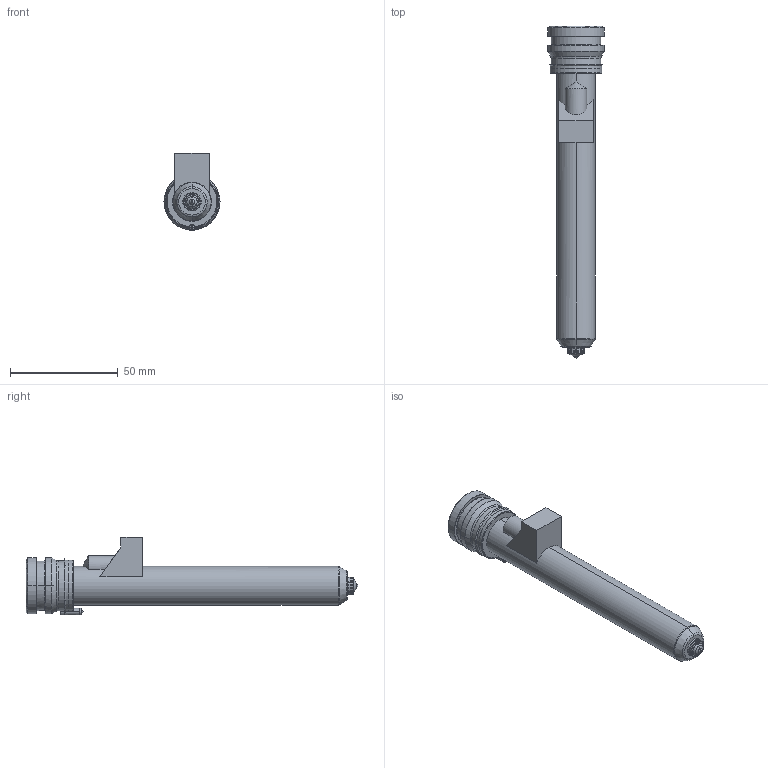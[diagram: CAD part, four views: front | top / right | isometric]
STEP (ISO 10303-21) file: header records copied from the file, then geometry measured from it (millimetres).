
FILE_DESCRIPTION((''),'2;1');
FILE_NAME('TH18136-M-1GLT-PK-JG','2023-12-14T',('umhib'),('Thermoplay S.p.A.'),'PRO/ENGINEER BY PARAMETRIC TECHNOLOGY CORPORATION, 2017170','PRO/ENGINEER BY PARAMETRIC TECHNOLOGY CORPORATION, 2017170','');
FILE_SCHEMA(('CONFIG_CONTROL_DESIGN'));
Length unit declared in the file: millimetre
Products named in the file (1): TH18136-M-1GLT-PK-JG
Bounding box: 26 x 154 x 36.1 mm (x, y, z)
Volume: 31485.8 mm3; surface area: 24097.6 mm2
Topology: 1 solids, 2 shells, 413 faces, 1052 edges, 647 vertices
Faces by surface type: cylinder 160, plane 92, cone 64, torus 64, bspline 22, sphere 9, extrusion 2
Entity records: 16929 total; most frequent: CARTESIAN_POINT 4931, DIRECTION 2166, ORIENTED_EDGE 2078, EDGE_CURVE 1041, AXIS2_PLACEMENT_3D 881, VERTEX_POINT 647, CIRCLE 491, EDGE_LOOP 441
